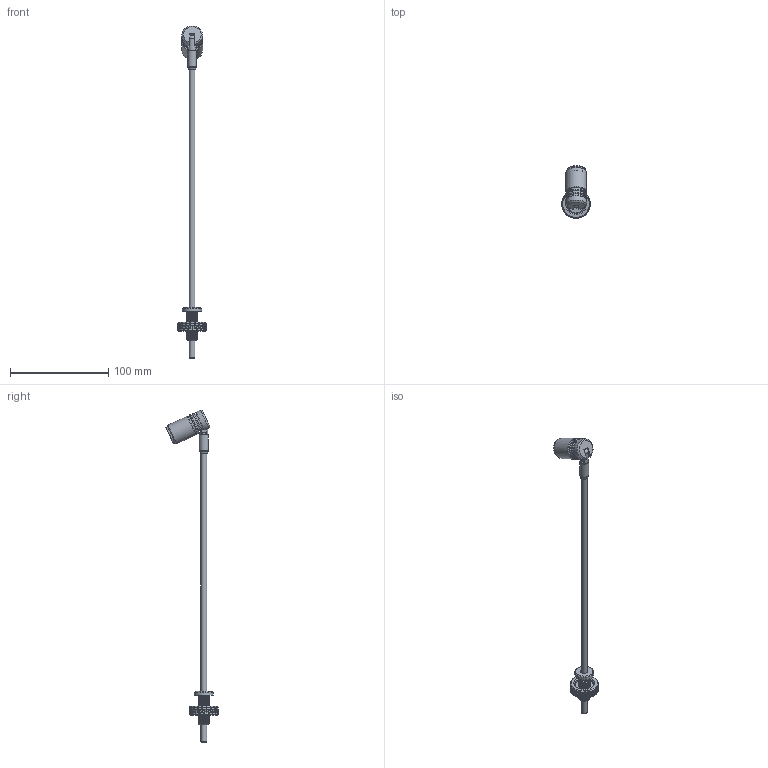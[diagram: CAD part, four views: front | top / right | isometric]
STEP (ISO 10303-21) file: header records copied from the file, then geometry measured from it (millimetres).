
FILE_DESCRIPTION(/* description */ (''),/* implementation_level */ '2;1');
FILE_NAME(/* name */ 'Micra-B.step',/* time_stamp */ '2023-09-08T11:11:56+02:00',/* author */ (''),/* organization */ (''),/* preprocessor_version */ 'ST-DEVELOPER v20',/* originating_system */ 'Autodesk Translation Framework v12.9.0.99',/* authorisation */ '');
FILE_SCHEMA (('AUTOMOTIVE_DESIGN { 1 0 10303 214 3 1 1 }'));
Length unit declared in the file: millimetre
Products named in the file (8): Composit; Corpo dissipatore; SNOOT; OTTICA-LL01CRHQ15LM2; Braccetto; Tubetto; Piede M12 v1; GHIERA ET4 Godronata v4
Assembly tree (7 placements, depth 2):
  Composit
    Corpo dissipatore
    SNOOT
    OTTICA-LL01CRHQ15LM2
    Braccetto
    Tubetto
    Piede M12 v1
    GHIERA ET4 Godronata v4
Bounding box: 29 x 53.08 x 338.26 mm (x, y, z)
Volume: 23092.7 mm3; surface area: 22389.5 mm2
Topology: 7 solids, 7 shells, 1326 faces, 2786 edges, 1483 vertices
Faces by surface type: bspline 972, cylinder 287, plane 40, cone 16, torus 10, sphere 1
Full cylindrical faces by diameter (mm): 3 x2, 3.5 x1, 4 x1, 5.035 x1, 5.884 x1, 6.2 x1, 6.5 x1, 7 x1, 9 x1, 9.836 x15, 10.274 x1, 11.834 x16, 13.8 x1, 15 x1, 16 x2, 16.6 x1, 18.5 x2, 18.74 x1, 19.5 x2, 21 x1
Entity records: 51782 total; most frequent: CARTESIAN_POINT 31768, ORIENTED_EDGE 5566, EDGE_CURVE 2783, B_SPLINE_CURVE_WITH_KNOTS 2511, VERTEX_POINT 1483, EDGE_LOOP 1350, FACE_OUTER_BOUND 1326, ADVANCED_FACE 1326
